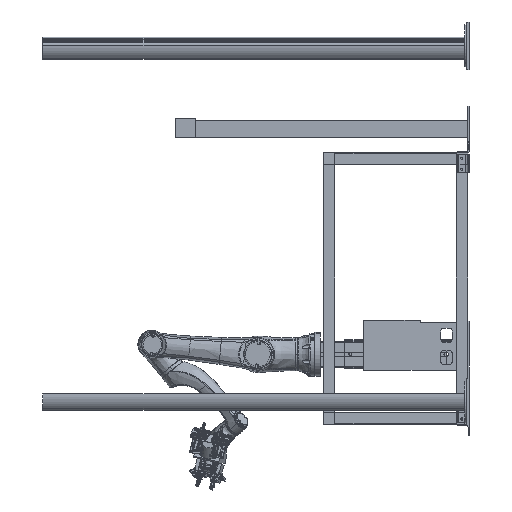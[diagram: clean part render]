
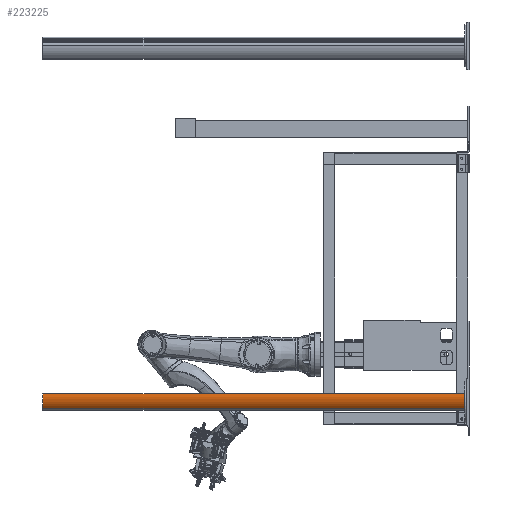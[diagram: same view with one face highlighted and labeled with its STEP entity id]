
A CAD part, left-side view. The second image highlights one B-rep face of the part: STEP entity #223225.
In plain terms, the highlighted cylindrical face has radius 79.059 mm (diameter 158.118 mm), a partial arc.
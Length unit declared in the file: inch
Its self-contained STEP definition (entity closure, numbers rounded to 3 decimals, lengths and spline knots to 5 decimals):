
#4221 = DIRECTION ( 'NONE',  ( 0., 1., 0. ) ) ;
#17272 = EDGE_LOOP ( 'NONE', ( #176191, #167631, #208007, #188907 ) ) ;
#23263 = CYLINDRICAL_SURFACE ( 'NONE', #43376, 3.11255 ) ;
#27812 = VECTOR ( 'NONE', #131597, 39.37008 ) ;
#28574 = CARTESIAN_POINT ( 'NONE',  ( -48.58814, 0.81496, -7.06548 ) ) ;
#40148 = VERTEX_POINT ( 'NONE', #165255 ) ;
#41828 = AXIS2_PLACEMENT_3D ( 'NONE', #185606, #145079, #67804 ) ;
#43376 = AXIS2_PLACEMENT_3D ( 'NONE', #233681, #4221, #195642 ) ;
#67804 = DIRECTION ( 'NONE',  ( 0., 0., 1. ) ) ;
#70887 = LINE ( 'NONE', #148172, #27812 ) ;
#85492 = VERTEX_POINT ( 'NONE', #193554 ) ;
#96926 = AXIS2_PLACEMENT_3D ( 'NONE', #112773, #248423, #130526 ) ;
#112773 = CARTESIAN_POINT ( 'NONE',  ( -45.50349, 0.81496, -7.48129 ) ) ;
#118319 = FACE_OUTER_BOUND ( 'NONE', #17272, .T. ) ;
#123706 = LINE ( 'NONE', #204805, #188611 ) ;
#130526 = DIRECTION ( 'NONE',  ( 0., 0., 1. ) ) ;
#130783 = CIRCLE ( 'NONE', #41828, 3.11255 ) ;
#131597 = DIRECTION ( 'NONE',  ( 0., 1., 0. ) ) ;
#145079 = DIRECTION ( 'NONE',  ( 0., 1., 0. ) ) ;
#148172 = CARTESIAN_POINT ( 'NONE',  ( -47.74304, -4.40649, -9.64285 ) ) ;
#148611 = EDGE_CURVE ( 'NONE', #213021, #40148, #246558, .T. ) ;
#152927 = CARTESIAN_POINT ( 'NONE',  ( -47.74304, 76.01181, -9.64285 ) ) ;
#165255 = CARTESIAN_POINT ( 'NONE',  ( -47.74304, 0.81496, -9.64285 ) ) ;
#165533 = DIRECTION ( 'NONE',  ( 0., 1., 0. ) ) ;
#167631 = ORIENTED_EDGE ( 'NONE', *, *, #171515, .T. ) ;
#171515 = EDGE_CURVE ( 'NONE', #213021, #85492, #123706, .T. ) ;
#176191 = ORIENTED_EDGE ( 'NONE', *, *, #148611, .F. ) ;
#185606 = CARTESIAN_POINT ( 'NONE',  ( -45.50349, 76.01181, -7.48129 ) ) ;
#188611 = VECTOR ( 'NONE', #165533, 39.37008 ) ;
#188907 = ORIENTED_EDGE ( 'NONE', *, *, #193260, .F. ) ;
#193260 = EDGE_CURVE ( 'NONE', #40148, #222458, #70887, .T. ) ;
#193554 = CARTESIAN_POINT ( 'NONE',  ( -48.58814, 76.01181, -7.06548 ) ) ;
#195642 = DIRECTION ( 'NONE',  ( 0., 0., 1. ) ) ;
#204805 = CARTESIAN_POINT ( 'NONE',  ( -48.58814, -4.40649, -7.06548 ) ) ;
#208007 = ORIENTED_EDGE ( 'NONE', *, *, #229075, .F. ) ;
#213021 = VERTEX_POINT ( 'NONE', #28574 ) ;
#222458 = VERTEX_POINT ( 'NONE', #152927 ) ;
#223225 = ADVANCED_FACE ( 'NONE', ( #118319 ), #23263, .T. ) ;
#229075 = EDGE_CURVE ( 'NONE', #222458, #85492, #130783, .T. ) ;
#233681 = CARTESIAN_POINT ( 'NONE',  ( -45.50349, -4.40649, -7.48129 ) ) ;
#246558 = CIRCLE ( 'NONE', #96926, 3.11255 ) ;
#248423 = DIRECTION ( 'NONE',  ( 0., -1., 0. ) ) ;
